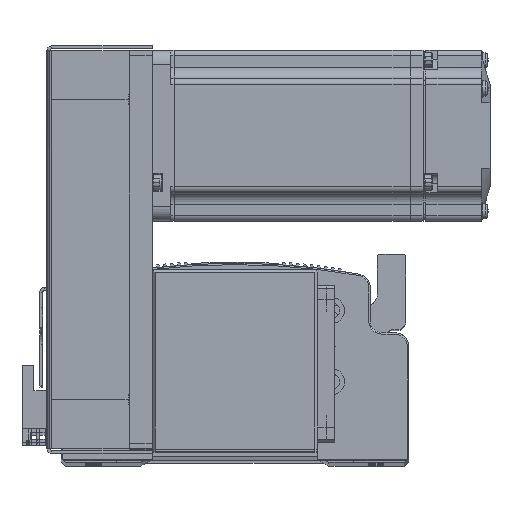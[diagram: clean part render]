
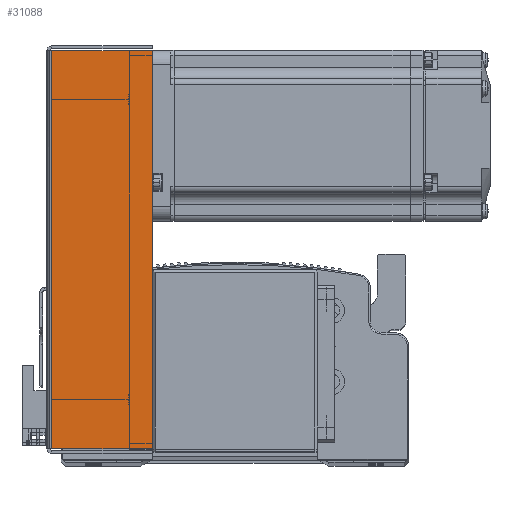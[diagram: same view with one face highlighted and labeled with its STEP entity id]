
A CAD part, top view. The second image highlights one B-rep face of the part: STEP entity #31088.
In plain terms, the highlighted planar face has unit normal (0, 0, 1) as drawn and (0, 0, -1) by its records, which use the part's own axes.
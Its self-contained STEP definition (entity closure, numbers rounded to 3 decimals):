
#7637 = VERTEX_POINT ( 'NONE', #36780 ) ;
#7651 = VERTEX_POINT ( 'NONE', #36763 ) ;
#7657 = VERTEX_POINT ( 'NONE', #36845 ) ;
#7662 = VERTEX_POINT ( 'NONE', #36875 ) ;
#13600 = LINE ( 'NONE', #89059, #13649 ) ;
#13624 = LINE ( 'NONE', #89434, #13632 ) ;
#13632 = VECTOR ( 'NONE', #89403, 1000. ) ;
#13649 = VECTOR ( 'NONE', #89038, 1000. ) ;
#14645 = LINE ( 'NONE', #88486, #14673 ) ;
#14673 = VECTOR ( 'NONE', #88550, 1000. ) ;
#14703 = VECTOR ( 'NONE', #88596, 1000. ) ;
#14753 = LINE ( 'NONE', #88602, #14703 ) ;
#20633 = CARTESIAN_POINT ( 'NONE',  ( 0., 0., -33.5 ) ) ;
#20644 = PLANE ( 'NONE',  #28712 ) ;
#20648 = DIRECTION ( 'NONE',  ( 0., -1., 0. ) ) ;
#20666 = DIRECTION ( 'NONE',  ( 0., 0., 1. ) ) ;
#28712 = AXIS2_PLACEMENT_3D ( 'NONE', #20633, #20666, #20648 ) ;
#31088 = ADVANCED_FACE ( 'NONE', ( #55674 ), #20644, .F. ) ;
#36763 = CARTESIAN_POINT ( 'NONE',  ( -69.793, 0.737, -33.5 ) ) ;
#36780 = CARTESIAN_POINT ( 'NONE',  ( 69.793, 0.737, -33.5 ) ) ;
#36845 = CARTESIAN_POINT ( 'NONE',  ( 69.793, 36., -33.5 ) ) ;
#36875 = CARTESIAN_POINT ( 'NONE',  ( -69.793, 36., -33.5 ) ) ;
#39371 = ORIENTED_EDGE ( 'NONE', *, *, #69133, .F. ) ;
#39387 = ORIENTED_EDGE ( 'NONE', *, *, #68996, .F. ) ;
#39437 = ORIENTED_EDGE ( 'NONE', *, *, #68970, .T. ) ;
#39443 = ORIENTED_EDGE ( 'NONE', *, *, #69215, .T. ) ;
#45337 = EDGE_LOOP ( 'NONE', ( #39371, #39443, #39437, #39387 ) ) ;
#55674 = FACE_OUTER_BOUND ( 'NONE', #45337, .T. ) ;
#68970 = EDGE_CURVE ( 'NONE', #7662, #7657, #14645, .T. ) ;
#68996 = EDGE_CURVE ( 'NONE', #7637, #7657, #14753, .T. ) ;
#69133 = EDGE_CURVE ( 'NONE', #7651, #7637, #13600, .T. ) ;
#69215 = EDGE_CURVE ( 'NONE', #7651, #7662, #13624, .T. ) ;
#88486 = CARTESIAN_POINT ( 'NONE',  ( 0., 36., -33.5 ) ) ;
#88550 = DIRECTION ( 'NONE',  ( 1., 0., 0. ) ) ;
#88596 = DIRECTION ( 'NONE',  ( 0., 1., 0. ) ) ;
#88602 = CARTESIAN_POINT ( 'NONE',  ( 69.793, 0., -33.5 ) ) ;
#89038 = DIRECTION ( 'NONE',  ( 1., 0., 0. ) ) ;
#89059 = CARTESIAN_POINT ( 'NONE',  ( 71.5, 0.737, -33.5 ) ) ;
#89403 = DIRECTION ( 'NONE',  ( 0., 1., 0. ) ) ;
#89434 = CARTESIAN_POINT ( 'NONE',  ( -69.793, 0., -33.5 ) ) ;
